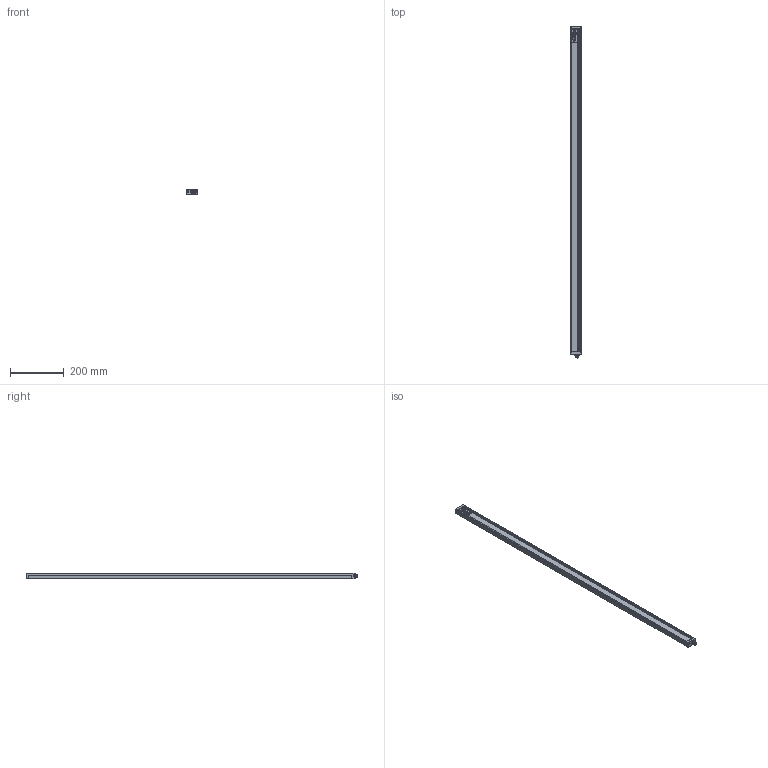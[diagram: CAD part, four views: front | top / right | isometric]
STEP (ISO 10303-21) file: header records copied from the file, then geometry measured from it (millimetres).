
FILE_DESCRIPTION(/* description */ (''),/* implementation_level */ '2;1');
FILE_NAME(/* name */ 'C:\Users\andre\SynologyDrive\Optoscan\Libreria Componenti\00 - Barriere\Barriera sorgente\Argo_1200_RX.stp',/* time_stamp */ '2021-04-22T12:00:05+02:00',/* author */ ('andre'),/* organization */ (''),/* preprocessor_version */ 'ST-DEVELOPER v18',/* originating_system */ 'Autodesk Inventor 2020',/* authorisation */ '');
FILE_SCHEMA (('AUTOMOTIVE_DESIGN { 1 0 10303 214 3 1 1 }'));
Length unit declared in the file: millimetre
Products named in the file (1): Argo_1200_RX
Bounding box: 40.5 x 1233.3 x 20.75 mm (x, y, z)
Volume: 244921.5 mm3; surface area: 322407.4 mm2
Topology: 1 solids, 1 shells, 692 faces, 1898 edges, 1217 vertices
Faces by surface type: plane 319, cylinder 195, bspline 94, torus 70, cone 8, sphere 6
Full cylindrical faces by diameter (mm): 1 x4, 2.459 x4, 2.5 x4, 3 x4, 3.5 x4, 5.5 x4, 8 x1, 10.5 x2, 11.75 x9, 15.7 x1, 17.5 x1
Entity records: 28165 total; most frequent: CARTESIAN_POINT 10195, ORIENTED_EDGE 3778, DIRECTION 3387, EDGE_CURVE 1889, VERTEX_POINT 1217, AXIS2_PLACEMENT_3D 1183, LINE 1021, VECTOR 1021
